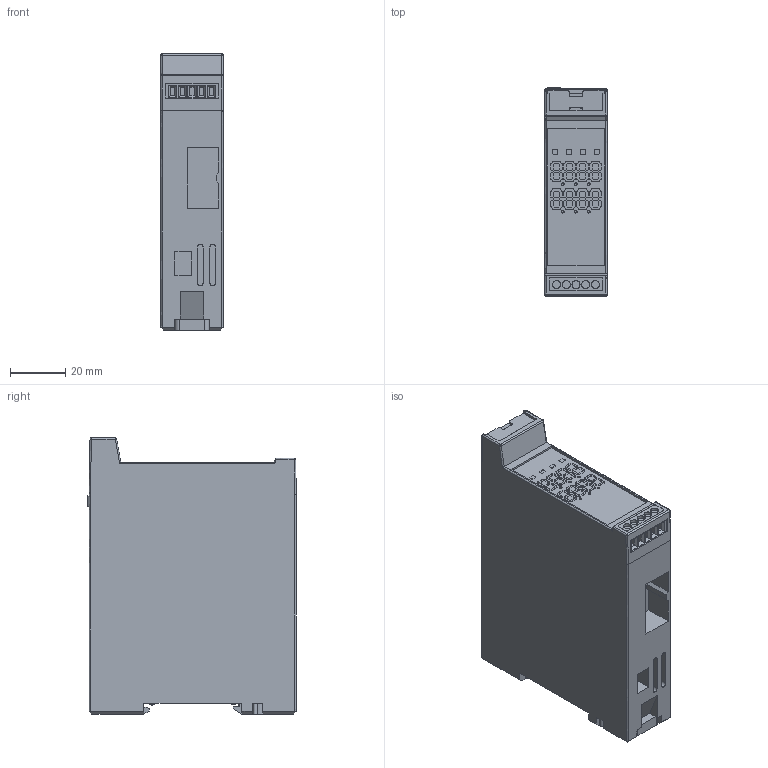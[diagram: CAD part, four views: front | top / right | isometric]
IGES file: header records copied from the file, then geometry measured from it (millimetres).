
Start section: SolidWorks IGES file using analytic representation for surfaces
Global section: file name: \\Mecha-dt\data\mecha_3d\D\DCL-300\D01-032-1\HP_3D\DCL_iges\DCL_170511.IGS; native system: SolidWorks 2017; preprocessor: SolidWorks 2017; author: kawahara; date: 180227.114324; units: millimetre
Bounding box: 22.5 x 75.5 x 100 mm (x, y, z)
Surface area: 25881 mm2 (no closed solid volume)
Topology: 0 solids, 0 shells, 972 faces, 8158 edges, 8152 vertices
Faces by surface type: bspline 666, revolution 306
